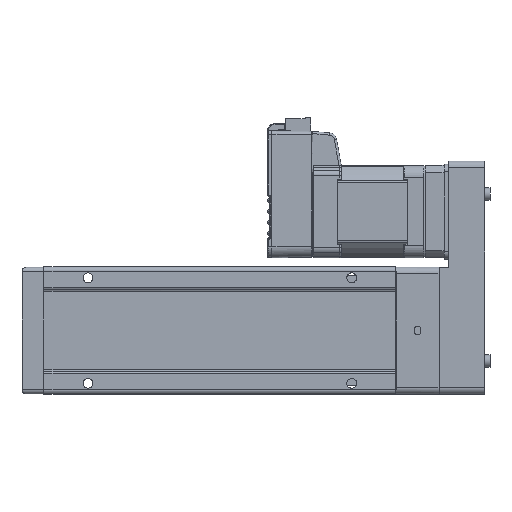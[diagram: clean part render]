
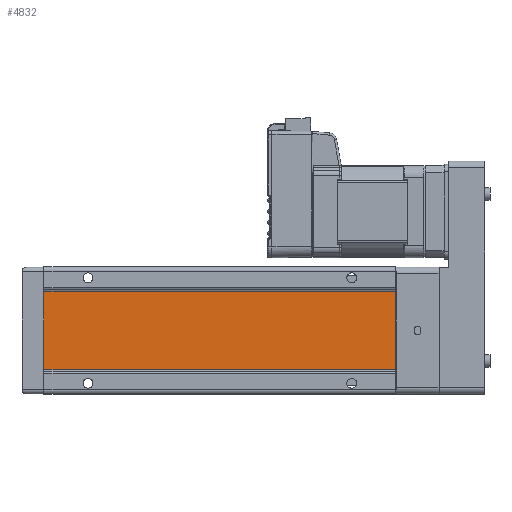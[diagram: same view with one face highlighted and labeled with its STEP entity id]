
A CAD part, front view. The second image highlights one B-rep face of the part: STEP entity #4832.
In plain terms, the highlighted planar face has unit normal (0, -1, 0).
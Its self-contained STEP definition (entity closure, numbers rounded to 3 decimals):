
#1707 = FACE_OUTER_BOUND ( 'NONE', #38823, .T. ) ;
#3481 = CARTESIAN_POINT ( 'NONE',  ( -17.848, 1., 0. ) ) ;
#3914 = ORIENTED_EDGE ( 'NONE', *, *, #7722, .T. ) ;
#4251 = VECTOR ( 'NONE', #33376, 1000. ) ;
#4666 = AXIS2_PLACEMENT_3D ( 'NONE', #5340, #15846, #29766 ) ;
#4832 = ADVANCED_FACE ( 'NONE', ( #1707 ), #15620, .F. ) ;
#5062 = VERTEX_POINT ( 'NONE', #24278 ) ;
#5340 = CARTESIAN_POINT ( 'NONE',  ( -17.848, 1., 910. ) ) ;
#5486 = VERTEX_POINT ( 'NONE', #22131 ) ;
#5834 = EDGE_CURVE ( 'NONE', #21714, #5486, #11461, .T. ) ;
#6187 = DIRECTION ( 'NONE',  ( 1., 0., 0. ) ) ;
#7722 = EDGE_CURVE ( 'NONE', #9623, #5486, #33743, .T. ) ;
#9120 = VECTOR ( 'NONE', #39230, 1000. ) ;
#9623 = VERTEX_POINT ( 'NONE', #17845 ) ;
#11461 = LINE ( 'NONE', #25428, #9120 ) ;
#12775 = VECTOR ( 'NONE', #26238, 1000. ) ;
#15620 = PLANE ( 'NONE',  #4666 ) ;
#15846 = DIRECTION ( 'NONE',  ( 0., 1., 0. ) ) ;
#16446 = ORIENTED_EDGE ( 'NONE', *, *, #34827, .T. ) ;
#17845 = CARTESIAN_POINT ( 'NONE',  ( -17.848, 1., 0. ) ) ;
#21714 = VERTEX_POINT ( 'NONE', #41341 ) ;
#22131 = CARTESIAN_POINT ( 'NONE',  ( 17.848, 1., 0. ) ) ;
#24278 = CARTESIAN_POINT ( 'NONE',  ( -17.848, 1., 160. ) ) ;
#25428 = CARTESIAN_POINT ( 'NONE',  ( 17.848, 1., 910. ) ) ;
#26238 = DIRECTION ( 'NONE',  ( 0., 0., -1. ) ) ;
#26362 = CARTESIAN_POINT ( 'NONE',  ( -17.848, 1., 160. ) ) ;
#26557 = VECTOR ( 'NONE', #6187, 1000. ) ;
#29036 = EDGE_CURVE ( 'NONE', #21714, #5062, #37029, .T. ) ;
#29412 = LINE ( 'NONE', #29650, #12775 ) ;
#29650 = CARTESIAN_POINT ( 'NONE',  ( -17.848, 1., 910. ) ) ;
#29766 = DIRECTION ( 'NONE',  ( 0., 0., 1. ) ) ;
#33376 = DIRECTION ( 'NONE',  ( -1., 0., 0. ) ) ;
#33743 = LINE ( 'NONE', #3481, #26557 ) ;
#34827 = EDGE_CURVE ( 'NONE', #5062, #9623, #29412, .T. ) ;
#37029 = LINE ( 'NONE', #26362, #4251 ) ;
#38823 = EDGE_LOOP ( 'NONE', ( #40495, #43704, #16446, #3914 ) ) ;
#39230 = DIRECTION ( 'NONE',  ( 0., 0., -1. ) ) ;
#40495 = ORIENTED_EDGE ( 'NONE', *, *, #5834, .F. ) ;
#41341 = CARTESIAN_POINT ( 'NONE',  ( 17.848, 1., 160. ) ) ;
#43704 = ORIENTED_EDGE ( 'NONE', *, *, #29036, .T. ) ;
